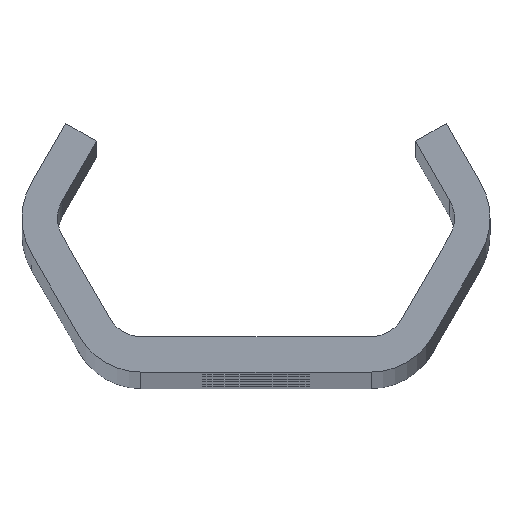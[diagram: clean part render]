
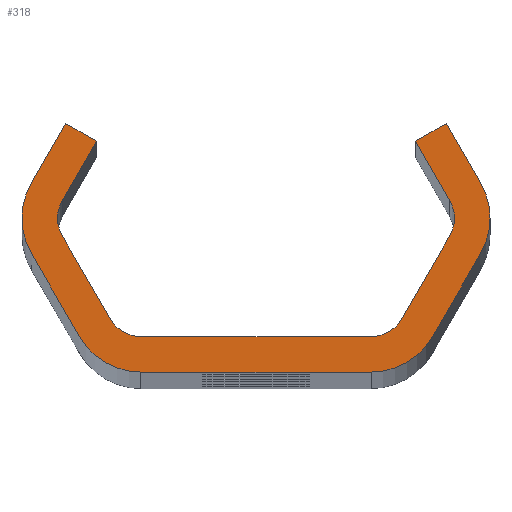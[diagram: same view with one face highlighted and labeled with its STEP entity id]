
A CAD part, top view. The second image highlights one B-rep face of the part: STEP entity #318.
In plain terms, the highlighted planar face has unit normal (0, 0, 1).
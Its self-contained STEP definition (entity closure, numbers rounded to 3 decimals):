
#318=ADVANCED_FACE('NONE',(#846),#847,.F.);
#846=FACE_OUTER_BOUND('',#2590,.T.);
#847=PLANE('',#2591);
#2590=EDGE_LOOP('',(#5192,#5193,#5194,#5195,#5196,#5197,#5198,#5199,#5200,#5201,#5202,#5203,#5204,#5205,#5206,#5207,#5208,#5209,#5210,#5211,#5212,#5213,#5214,#5215));
#2591=AXIS2_PLACEMENT_3D('',#5216,#5217,#5218);
#5192=ORIENTED_EDGE('',*,*,#6957,.T.);
#5193=ORIENTED_EDGE('',*,*,#6978,.T.);
#5194=ORIENTED_EDGE('',*,*,#6790,.T.);
#5195=ORIENTED_EDGE('',*,*,#6959,.T.);
#5196=ORIENTED_EDGE('',*,*,#6979,.T.);
#5197=ORIENTED_EDGE('',*,*,#6963,.T.);
#5198=ORIENTED_EDGE('',*,*,#6980,.T.);
#5199=ORIENTED_EDGE('',*,*,#6797,.T.);
#5200=ORIENTED_EDGE('',*,*,#6981,.T.);
#5201=ORIENTED_EDGE('',*,*,#6673,.T.);
#5202=ORIENTED_EDGE('',*,*,#6800,.T.);
#5203=ORIENTED_EDGE('',*,*,#6806,.T.);
#5204=ORIENTED_EDGE('',*,*,#6809,.T.);
#5205=ORIENTED_EDGE('',*,*,#6787,.T.);
#5206=ORIENTED_EDGE('',*,*,#6982,.T.);
#5207=ORIENTED_EDGE('',*,*,#6811,.T.);
#5208=ORIENTED_EDGE('',*,*,#6983,.T.);
#5209=ORIENTED_EDGE('',*,*,#6818,.T.);
#5210=ORIENTED_EDGE('',*,*,#6984,.T.);
#5211=ORIENTED_EDGE('',*,*,#6944,.T.);
#5212=ORIENTED_EDGE('',*,*,#6985,.T.);
#5213=ORIENTED_EDGE('',*,*,#6668,.T.);
#5214=ORIENTED_EDGE('',*,*,#6947,.T.);
#5215=ORIENTED_EDGE('',*,*,#6953,.T.);
#5216=CARTESIAN_POINT('',(0.0,0.0,800.0));
#5217=DIRECTION('',(0.0,0.0,-1.0));
#5218=DIRECTION('',(0.0,-1.0,0.0));
#6668=EDGE_CURVE('NONE',#7448,#7452,#7454,.T.);
#6673=EDGE_CURVE('NONE',#7457,#7461,#7463,.T.);
#6787=EDGE_CURVE('NONE',#7668,#7666,#7669,.T.);
#6790=EDGE_CURVE('NONE',#7672,#7673,#7674,.T.);
#6797=EDGE_CURVE('NONE',#7686,#7684,#7687,.T.);
#6800=EDGE_CURVE('NONE',#7461,#7690,#7691,.T.);
#6806=EDGE_CURVE('NONE',#7690,#7698,#7700,.T.);
#6809=EDGE_CURVE('NONE',#7698,#7668,#7703,.T.);
#6811=EDGE_CURVE('NONE',#7705,#7706,#7707,.T.);
#6818=EDGE_CURVE('NONE',#7719,#7717,#7720,.T.);
#6944=EDGE_CURVE('NONE',#7954,#7952,#7955,.T.);
#6947=EDGE_CURVE('NONE',#7452,#7958,#7959,.T.);
#6953=EDGE_CURVE('NONE',#7958,#7966,#7968,.T.);
#6957=EDGE_CURVE('NONE',#7966,#7972,#7974,.T.);
#6959=EDGE_CURVE('NONE',#7673,#7976,#7977,.T.);
#6963=EDGE_CURVE('NONE',#7982,#7983,#7984,.T.);
#6978=EDGE_CURVE('NONE',#7972,#7672,#8001,.T.);
#6979=EDGE_CURVE('NONE',#7976,#7982,#8002,.T.);
#6980=EDGE_CURVE('NONE',#7983,#7686,#8003,.T.);
#6981=EDGE_CURVE('NONE',#7684,#7457,#8004,.T.);
#6982=EDGE_CURVE('NONE',#7666,#7705,#8005,.T.);
#6983=EDGE_CURVE('NONE',#7706,#7719,#8006,.T.);
#6984=EDGE_CURVE('NONE',#7717,#7954,#8007,.T.);
#6985=EDGE_CURVE('NONE',#7952,#7448,#8008,.T.);
#7448=VERTEX_POINT('',#8606);
#7452=VERTEX_POINT('NONE',#8611);
#7454=CIRCLE('',#8614,3.0);
#7457=VERTEX_POINT('',#8617);
#7461=VERTEX_POINT('NONE',#8622);
#7463=CIRCLE('',#8625,6.0);
#7666=VERTEX_POINT('NONE',#9898);
#7668=VERTEX_POINT('NONE',#9901);
#7669=CIRCLE('',#9902,3.0);
#7672=VERTEX_POINT('NONE',#9906);
#7673=VERTEX_POINT('NONE',#9907);
#7674=CIRCLE('',#9908,6.0);
#7684=VERTEX_POINT('NONE',#9921);
#7686=VERTEX_POINT('NONE',#9924);
#7687=LINE('',#9925,#9926);
#7690=VERTEX_POINT('NONE',#9930);
#7691=LINE('',#9931,#9932);
#7698=VERTEX_POINT('NONE',#9942);
#7700=LINE('',#9945,#9946);
#7703=LINE('',#9950,#9951);
#7705=VERTEX_POINT('NONE',#9953);
#7706=VERTEX_POINT('NONE',#9954);
#7707=LINE('',#9955,#9956);
#7717=VERTEX_POINT('NONE',#9970);
#7719=VERTEX_POINT('NONE',#9973);
#7720=LINE('',#9974,#9975);
#7952=VERTEX_POINT('NONE',#10809);
#7954=VERTEX_POINT('NONE',#10812);
#7955=LINE('',#10813,#10814);
#7958=VERTEX_POINT('NONE',#10818);
#7959=LINE('',#10819,#10820);
#7966=VERTEX_POINT('NONE',#10830);
#7968=LINE('',#10833,#10834);
#7972=VERTEX_POINT('NONE',#10839);
#7974=LINE('',#10842,#10843);
#7976=VERTEX_POINT('NONE',#10845);
#7977=LINE('',#10846,#10847);
#7982=VERTEX_POINT('NONE',#10854);
#7983=VERTEX_POINT('NONE',#10855);
#7984=LINE('',#10856,#10857);
#8001=CIRCLE('',#10877,6.0);
#8002=CIRCLE('',#10878,6.0);
#8003=CIRCLE('',#10879,6.0);
#8004=CIRCLE('',#10880,6.0);
#8005=CIRCLE('',#10881,3.0);
#8006=CIRCLE('',#10882,3.0);
#8007=CIRCLE('',#10883,3.0);
#8008=CIRCLE('',#10884,3.0);
#8606=CARTESIAN_POINT('',(-16.764,0.,800.0));
#8611=CARTESIAN_POINT('',(-16.362,1.5,800.0));
#8614=AXIS2_PLACEMENT_3D('',#12835,#12836,#12837);
#8617=CARTESIAN_POINT('',(19.764,0.,800.0));
#8622=CARTESIAN_POINT('',(18.96,3.,800.0));
#8625=AXIS2_PLACEMENT_3D('',#12843,#12844,#12845);
#9898=CARTESIAN_POINT('',(16.764,0.,800.0));
#9901=CARTESIAN_POINT('',(16.362,1.5,800.0));
#9902=AXIS2_PLACEMENT_3D('',#12954,#12955,#12956);
#9906=CARTESIAN_POINT('',(-19.764,0.,800.0));
#9907=CARTESIAN_POINT('',(-18.96,-3.,800.0));
#9908=AXIS2_PLACEMENT_3D('',#12958,#12959,#12960);
#9921=CARTESIAN_POINT('',(18.96,-3.,800.0));
#9924=CARTESIAN_POINT('',(14.919,-10.,800.0));
#9925=CARTESIAN_POINT('',(20.692,0.,800.0));
#9926=VECTOR('',#12968,1000.0);
#9930=CARTESIAN_POINT('',(16.074,8.,800.0));
#9931=CARTESIAN_POINT('',(16.074,8.,800.0));
#9932=VECTOR('',#12970,1000.0);
#9942=CARTESIAN_POINT('',(13.475,6.5,800.0));
#9945=CARTESIAN_POINT('',(13.475,6.5,800.0));
#9946=VECTOR('',#12975,1000.0);
#9950=CARTESIAN_POINT('',(17.228,0.,800.0));
#9951=VECTOR('',#12977,1000.0);
#9953=CARTESIAN_POINT('',(16.362,-1.5,800.0));
#9954=CARTESIAN_POINT('',(12.321,-8.5,800.0));
#9955=CARTESIAN_POINT('',(11.455,-10.0,800.0));
#9956=VECTOR('',#12978,1000.0);
#9970=CARTESIAN_POINT('',(-9.723,-10.0,800.0));
#9973=CARTESIAN_POINT('',(9.723,-10.0,800.0));
#9974=CARTESIAN_POINT('',(-11.455,-10.0,800.0));
#9975=VECTOR('',#12984,1000.0);
#10809=CARTESIAN_POINT('',(-16.362,-1.5,800.0));
#10812=CARTESIAN_POINT('',(-12.321,-8.5,800.0));
#10813=CARTESIAN_POINT('',(-17.228,0.,800.0));
#10814=VECTOR('',#13117,1000.0);
#10818=CARTESIAN_POINT('',(-13.475,6.5,800.0));
#10819=CARTESIAN_POINT('',(-13.475,6.5,800.0));
#10820=VECTOR('',#13119,1000.0);
#10830=CARTESIAN_POINT('',(-16.074,8.,800.0));
#10833=CARTESIAN_POINT('',(-13.475,6.5,800.0));
#10834=VECTOR('',#13124,1000.0);
#10839=CARTESIAN_POINT('',(-18.96,3.,800.0));
#10842=CARTESIAN_POINT('',(-16.074,8.,800.0));
#10843=VECTOR('',#13127,1000.0);
#10845=CARTESIAN_POINT('',(-14.919,-10.,800.0));
#10846=CARTESIAN_POINT('',(-20.692,0.,800.0));
#10847=VECTOR('',#13128,1000.0);
#10854=CARTESIAN_POINT('',(-9.723,-13.0,800.0));
#10855=CARTESIAN_POINT('',(9.723,-13.0,800.0));
#10856=CARTESIAN_POINT('',(-13.187,-13.0,800.0));
#10857=VECTOR('',#13131,1000.0);
#10877=AXIS2_PLACEMENT_3D('',#13165,#13166,#13167);
#10878=AXIS2_PLACEMENT_3D('',#13168,#13169,#13170);
#10879=AXIS2_PLACEMENT_3D('',#13171,#13172,#13173);
#10880=AXIS2_PLACEMENT_3D('',#13174,#13175,#13176);
#10881=AXIS2_PLACEMENT_3D('',#13177,#13178,#13179);
#10882=AXIS2_PLACEMENT_3D('',#13180,#13181,#13182);
#10883=AXIS2_PLACEMENT_3D('',#13183,#13184,#13185);
#10884=AXIS2_PLACEMENT_3D('',#13186,#13187,#13188);
#12835=CARTESIAN_POINT('',(-13.764,0.,800.0));
#12836=DIRECTION('',(0.0,0.0,-1.0));
#12837=DIRECTION('',(-1.0,0.0,0.0));
#12843=CARTESIAN_POINT('',(13.764,0.,800.0));
#12844=DIRECTION('',(0.0,0.0,1.0));
#12845=DIRECTION('',(-1.0,0.0,0.0));
#12954=CARTESIAN_POINT('',(13.764,0.,800.0));
#12955=DIRECTION('',(0.0,0.0,-1.0));
#12956=DIRECTION('',(-1.0,0.0,0.0));
#12958=CARTESIAN_POINT('',(-13.764,0.,800.0));
#12959=DIRECTION('',(0.0,0.0,1.0));
#12960=DIRECTION('',(-1.0,0.0,0.0));
#12968=DIRECTION('',(0.5,0.866,-0.0));
#12970=DIRECTION('',(-0.5,0.866,-0.0));
#12975=DIRECTION('',(-0.866,-0.5,-0.0));
#12977=DIRECTION('',(0.5,-0.866,-0.0));
#12978=DIRECTION('',(-0.5,-0.866,-0.0));
#12984=DIRECTION('',(-1.0,0.,-0.0));
#13117=DIRECTION('',(-0.5,0.866,-0.0));
#13119=DIRECTION('',(0.5,0.866,-0.0));
#13124=DIRECTION('',(-0.866,0.5,0.0));
#13127=DIRECTION('',(-0.5,-0.866,0.0));
#13128=DIRECTION('',(0.5,-0.866,0.0));
#13131=DIRECTION('',(1.0,0.0,0.0));
#13165=CARTESIAN_POINT('',(-13.764,0.,800.0));
#13166=DIRECTION('',(0.0,0.0,1.0));
#13167=DIRECTION('',(-1.0,0.,0.0));
#13168=CARTESIAN_POINT('',(-9.723,-7.0,800.0));
#13169=DIRECTION('',(0.0,0.0,1.0));
#13170=DIRECTION('',(-1.0,0.0,0.0));
#13171=CARTESIAN_POINT('',(9.723,-7.0,800.0));
#13172=DIRECTION('',(0.0,0.0,1.0));
#13173=DIRECTION('',(-1.0,0.,0.0));
#13174=CARTESIAN_POINT('',(13.764,0.,800.0));
#13175=DIRECTION('',(0.0,0.0,1.0));
#13176=DIRECTION('',(-1.0,0.0,0.0));
#13177=CARTESIAN_POINT('',(13.764,0.,800.0));
#13178=DIRECTION('',(0.0,0.0,-1.0));
#13179=DIRECTION('',(-1.0,0.0,0.0));
#13180=CARTESIAN_POINT('',(9.723,-7.0,800.0));
#13181=DIRECTION('',(0.0,0.0,-1.0));
#13182=DIRECTION('',(-1.0,0.0,0.0));
#13183=CARTESIAN_POINT('',(-9.723,-7.0,800.0));
#13184=DIRECTION('',(0.0,0.0,-1.0));
#13185=DIRECTION('',(-1.0,0.0,0.0));
#13186=CARTESIAN_POINT('',(-13.764,0.,800.0));
#13187=DIRECTION('',(0.0,0.0,-1.0));
#13188=DIRECTION('',(-1.0,0.0,0.0));
